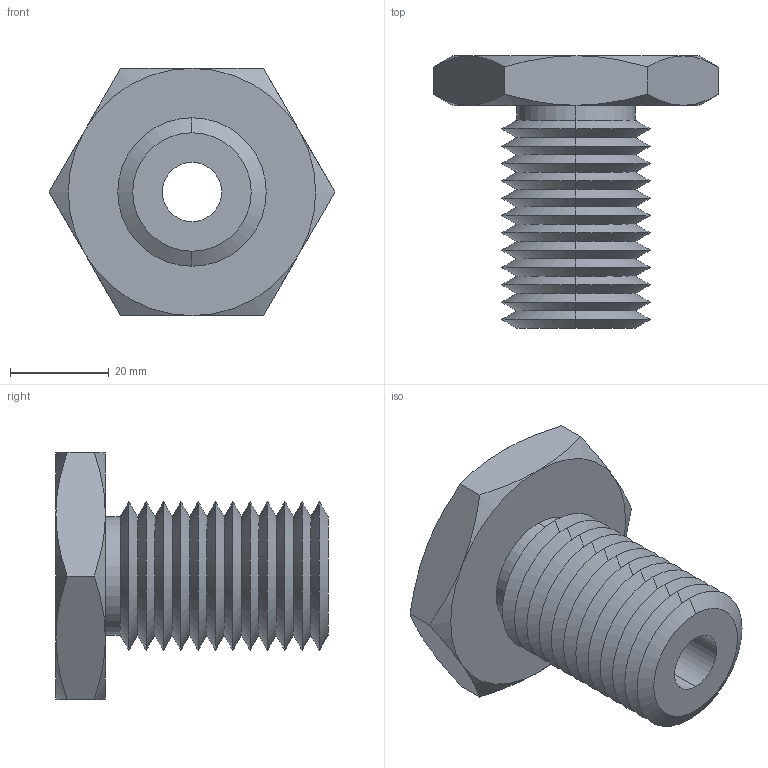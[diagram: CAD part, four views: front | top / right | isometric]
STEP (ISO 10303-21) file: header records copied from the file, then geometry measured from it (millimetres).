
FILE_DESCRIPTION (( 'STEP AP203' ), '1' );
FILE_NAME ('63302.W0030_M12x1,7.step', '2013-12-08T11:05:39', ( 'User' ), ( '' ), 'SwSTEP 2.0', 'SolidWorks 2009', '' );
FILE_SCHEMA (( 'CONFIG_CONTROL_DESIGN' ));
Length unit declared in the file: millimetre
Products named in the file (1): 63302.W0030_M12x1,7
Bounding box: 57.73 x 55 x 50 mm (x, y, z)
Volume: 40542.3 mm3; surface area: 15015.2 mm2
Topology: 1 solids, 1 shells, 75 faces, 154 edges, 82 vertices
Faces by surface type: cone 62, plane 9, cylinder 4
Entity records: 2139 total; most frequent: CARTESIAN_POINT 496, DIRECTION 352, ORIENTED_EDGE 308, EDGE_CURVE 154, AXIS2_PLACEMENT_3D 146, VERTEX_POINT 82, EDGE_LOOP 78, ADVANCED_FACE 75
